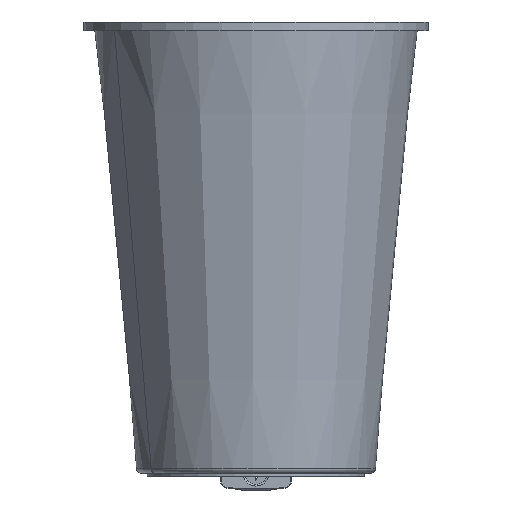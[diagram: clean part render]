
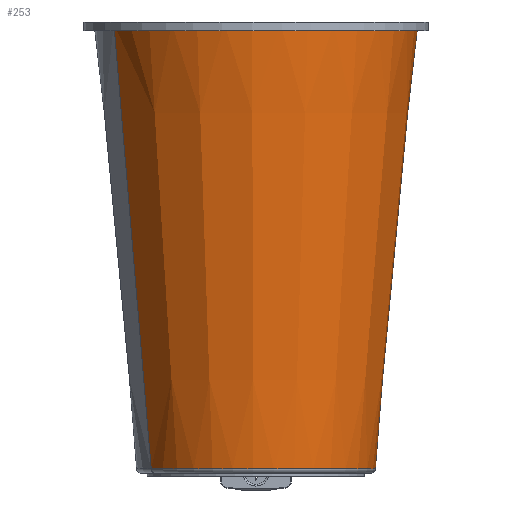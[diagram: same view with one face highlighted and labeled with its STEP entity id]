
A CAD part, left-side view. The second image highlights one B-rep face of the part: STEP entity #253.
In plain terms, the highlighted conical face has half-angle 5.458 degrees and reference radius 152.5 mm.
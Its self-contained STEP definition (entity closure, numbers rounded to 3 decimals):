
#177=CARTESIAN_POINT('Vertex',(85.112,-133.831,5.429)) ;
#180=CARTESIAN_POINT('Axis2P3D Location',(12.,0.,5.429)) ;
#184=CARTESIAN_POINT('Vertex',(-61.112,133.831,5.429)) ;
#223=CARTESIAN_POINT('Axis2P3D Location',(12.,0.,5.429)) ;
#228=CARTESIAN_POINT('Line Origine',(98.134,-157.668,289.715)) ;
#232=CARTESIAN_POINT('Vertex',(111.156,-181.504,574.)) ;
#235=CARTESIAN_POINT('Axis2P3D Location',(12.,0.,574.)) ;
#239=CARTESIAN_POINT('Vertex',(-87.156,181.504,574.)) ;
#242=CARTESIAN_POINT('Line Origine',(-74.134,157.668,289.715)) ;
#181=DIRECTION('Axis2P3D Direction',(0.,0.,1.)) ;
#224=DIRECTION('Axis2P3D Direction',(0.,0.,1.)) ;
#225=DIRECTION('Axis2P3D XDirection',(0.479,-0.878,0.)) ;
#229=DIRECTION('Vector Direction',(0.046,-0.083,0.995)) ;
#236=DIRECTION('Axis2P3D Direction',(0.,0.,1.)) ;
#243=DIRECTION('Vector Direction',(-0.046,0.083,0.995)) ;
#182=AXIS2_PLACEMENT_3D('Circle Axis2P3D',#180,#181,$) ;
#226=AXIS2_PLACEMENT_3D('Cone Axis2P3D',#223,#224,#225) ;
#237=AXIS2_PLACEMENT_3D('Circle Axis2P3D',#235,#236,$) ;
#248=ORIENTED_EDGE('',*,*,#234,.T.) ;
#249=ORIENTED_EDGE('',*,*,#241,.F.) ;
#250=ORIENTED_EDGE('',*,*,#246,.F.) ;
#251=ORIENTED_EDGE('',*,*,#186,.T.) ;
#230=VECTOR('Line Direction',#229,1.) ;
#244=VECTOR('Line Direction',#243,1.) ;
#253=ADVANCED_FACE('PartBody',(#252),#227,.T.) ;
#183=CIRCLE('generated circle',#182,152.5) ;
#238=CIRCLE('generated circle',#237,206.823) ;
#227=CONICAL_SURFACE('Cone',#226,152.5,0.095) ;
#186=EDGE_CURVE('',#185,#178,#183,.T.) ;
#234=EDGE_CURVE('',#178,#233,#231,.T.) ;
#241=EDGE_CURVE('',#240,#233,#238,.T.) ;
#246=EDGE_CURVE('',#185,#240,#245,.T.) ;
#247=EDGE_LOOP('',(#248,#249,#250,#251)) ;
#252=FACE_OUTER_BOUND('',#247,.T.) ;
#231=LINE('Line',#228,#230) ;
#245=LINE('Line',#242,#244) ;
#178=VERTEX_POINT('',#177) ;
#185=VERTEX_POINT('',#184) ;
#233=VERTEX_POINT('',#232) ;
#240=VERTEX_POINT('',#239) ;
